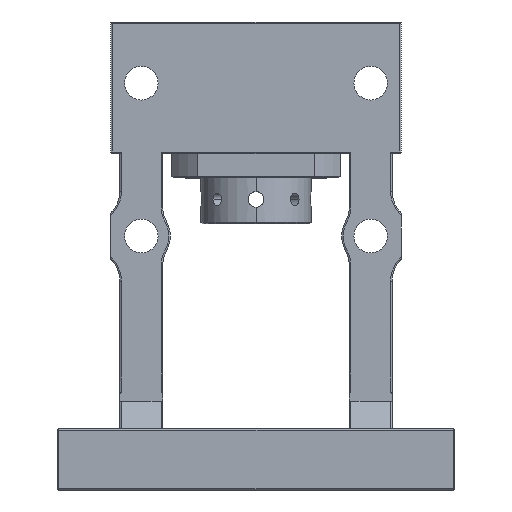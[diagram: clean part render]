
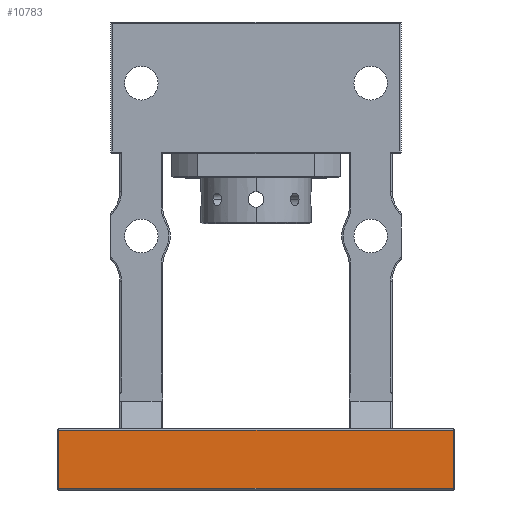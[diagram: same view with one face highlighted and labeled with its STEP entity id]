
A CAD part, front view. The second image highlights one B-rep face of the part: STEP entity #10783.
In plain terms, the highlighted planar face has unit normal (0, -1, 0).
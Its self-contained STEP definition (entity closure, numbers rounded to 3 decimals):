
#505 = VERTEX_POINT ( 'NONE', #7723 ) ;
#516 = EDGE_CURVE ( 'NONE', #848, #11538, #3845, .T. ) ;
#848 = VERTEX_POINT ( 'NONE', #7210 ) ;
#1242 = FACE_OUTER_BOUND ( 'NONE', #2426, .T. ) ;
#1322 = DIRECTION ( 'NONE',  ( 0., 0., -1. ) ) ;
#1547 = CARTESIAN_POINT ( 'NONE',  ( -64.5, -65., -124. ) ) ;
#1827 = VECTOR ( 'NONE', #1322, 1000. ) ;
#2426 = EDGE_LOOP ( 'NONE', ( #11337, #10504, #2550, #11471 ) ) ;
#2550 = ORIENTED_EDGE ( 'NONE', *, *, #11918, .T. ) ;
#2748 = EDGE_CURVE ( 'NONE', #11538, #4786, #9302, .T. ) ;
#3190 = VECTOR ( 'NONE', #9721, 1000. ) ;
#3845 = LINE ( 'NONE', #9474, #6312 ) ;
#4210 = CARTESIAN_POINT ( 'NONE',  ( -64.5, -65., -124.5 ) ) ;
#4339 = DIRECTION ( 'NONE',  ( 1., 0., 0. ) ) ;
#4786 = VERTEX_POINT ( 'NONE', #9875 ) ;
#5092 = DIRECTION ( 'NONE',  ( -1., 0., 0. ) ) ;
#5664 = DIRECTION ( 'NONE',  ( 0., 1., 0. ) ) ;
#6041 = CARTESIAN_POINT ( 'NONE',  ( 64.5, -65., -124. ) ) ;
#6312 = VECTOR ( 'NONE', #5092, 1000. ) ;
#6544 = CARTESIAN_POINT ( 'NONE',  ( 65., -65., -124. ) ) ;
#6676 = VECTOR ( 'NONE', #4339, 1000. ) ;
#7210 = CARTESIAN_POINT ( 'NONE',  ( 64.5, -65., -124.5 ) ) ;
#7723 = CARTESIAN_POINT ( 'NONE',  ( 64.5, -65., -143.5 ) ) ;
#7853 = LINE ( 'NONE', #6041, #3190 ) ;
#9302 = LINE ( 'NONE', #1547, #1827 ) ;
#9353 = PLANE ( 'NONE',  #10827 ) ;
#9474 = CARTESIAN_POINT ( 'NONE',  ( -65., -65., -124.5 ) ) ;
#9721 = DIRECTION ( 'NONE',  ( 0., 0., 1. ) ) ;
#9875 = CARTESIAN_POINT ( 'NONE',  ( -64.5, -65., -143.5 ) ) ;
#9917 = CARTESIAN_POINT ( 'NONE',  ( 65., -65., -143.5 ) ) ;
#10504 = ORIENTED_EDGE ( 'NONE', *, *, #2748, .T. ) ;
#10783 = ADVANCED_FACE ( 'NONE', ( #1242 ), #9353, .F. ) ;
#10827 = AXIS2_PLACEMENT_3D ( 'NONE', #6544, #5664, #12022 ) ;
#11337 = ORIENTED_EDGE ( 'NONE', *, *, #516, .T. ) ;
#11471 = ORIENTED_EDGE ( 'NONE', *, *, #11840, .T. ) ;
#11519 = LINE ( 'NONE', #9917, #6676 ) ;
#11538 = VERTEX_POINT ( 'NONE', #4210 ) ;
#11840 = EDGE_CURVE ( 'NONE', #505, #848, #7853, .T. ) ;
#11918 = EDGE_CURVE ( 'NONE', #4786, #505, #11519, .T. ) ;
#12022 = DIRECTION ( 'NONE',  ( -1., 0., 0. ) ) ;
